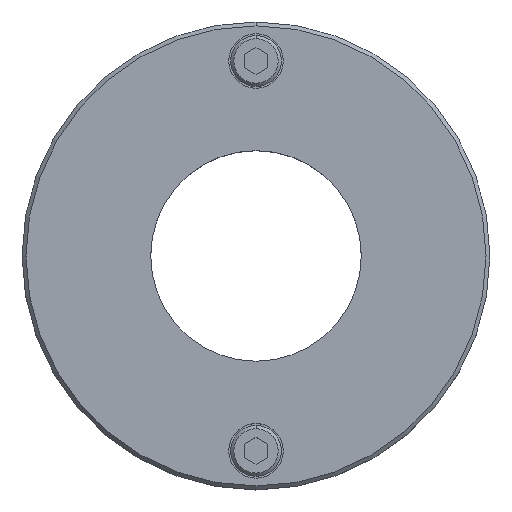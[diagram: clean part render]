
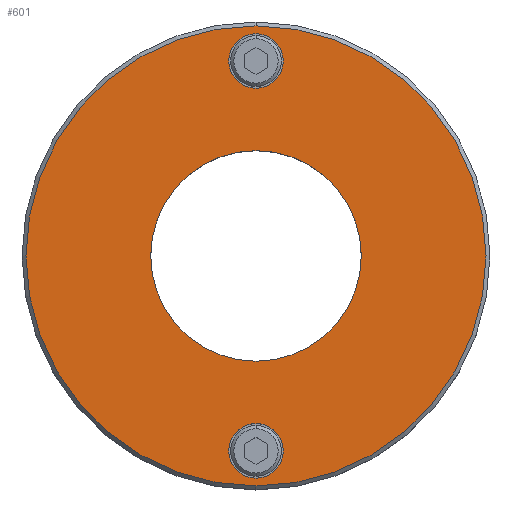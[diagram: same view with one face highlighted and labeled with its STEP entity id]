
A CAD part, top view. The second image highlights one B-rep face of the part: STEP entity #601.
In plain terms, the highlighted planar face has unit normal (0, 0, 1).
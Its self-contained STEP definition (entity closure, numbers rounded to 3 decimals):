
#124=VERTEX_POINT(' ',#125);
#125=CARTESIAN_POINT('',(0.,27.,20.));
#126=VERTEX_POINT(' ',#127);
#127=CARTESIAN_POINT('',(0.,-27.,20.));
#136=VERTEX_POINT(' ',#137);
#137=CARTESIAN_POINT('',(0.,57.,20.));
#138=VERTEX_POINT(' ',#139);
#139=CARTESIAN_POINT('',(0.,43.,20.));
#144=VERTEX_POINT(' ',#145);
#145=CARTESIAN_POINT('',(0.,-43.,20.));
#146=VERTEX_POINT(' ',#147);
#147=CARTESIAN_POINT('',(0.,-57.,20.));
#156=VERTEX_POINT(' ',#157);
#157=CARTESIAN_POINT('',(0.,59.,20.));
#158=VERTEX_POINT(' ',#159);
#159=CARTESIAN_POINT('',(0.,-59.,20.));
#218=CIRCLE('',#219,27.);
#219=AXIS2_PLACEMENT_3D('',#220,#221,#222);
#220=CARTESIAN_POINT('',(0.,0.,20.));
#221=DIRECTION('',(0.,0.,-1.));
#222=DIRECTION('',(-1.,0.,0.));
#223=EDGE_CURVE(' ',#124,#126,#218,.T.);
#224=CIRCLE('',#225,27.);
#225=AXIS2_PLACEMENT_3D('',#226,#227,#228);
#226=CARTESIAN_POINT('',(0.,0.,20.));
#227=DIRECTION('',(0.,0.,-1.));
#228=DIRECTION('',(1.,0.,0.));
#229=EDGE_CURVE(' ',#126,#124,#224,.T.);
#274=CIRCLE('',#275,7.);
#275=AXIS2_PLACEMENT_3D('',#276,#277,#278);
#276=CARTESIAN_POINT('',(0.,50.,20.));
#277=DIRECTION('',(0.,0.,1.));
#278=DIRECTION('',(1.,0.,0.));
#279=EDGE_CURVE(' ',#136,#138,#274,.T.);
#296=CIRCLE('',#297,7.);
#297=AXIS2_PLACEMENT_3D('',#298,#299,#300);
#298=CARTESIAN_POINT('',(0.,50.,20.));
#299=DIRECTION('',(0.,0.,1.));
#300=DIRECTION('',(-1.,0.,0.));
#301=EDGE_CURVE(' ',#138,#136,#296,.T.);
#308=CIRCLE('',#309,7.);
#309=AXIS2_PLACEMENT_3D('',#310,#311,#312);
#310=CARTESIAN_POINT('',(0.,-50.,20.));
#311=DIRECTION('',(0.,0.,1.));
#312=DIRECTION('',(1.,0.,0.));
#313=EDGE_CURVE(' ',#144,#146,#308,.T.);
#330=CIRCLE('',#331,7.);
#331=AXIS2_PLACEMENT_3D('',#332,#333,#334);
#332=CARTESIAN_POINT('',(0.,-50.,20.));
#333=DIRECTION('',(0.,0.,1.));
#334=DIRECTION('',(-1.,0.,0.));
#335=EDGE_CURVE(' ',#146,#144,#330,.T.);
#364=CIRCLE('',#365,59.);
#365=AXIS2_PLACEMENT_3D('',#366,#367,#368);
#366=CARTESIAN_POINT('',(0.,0.,20.));
#367=DIRECTION('',(0.,0.,1.));
#368=DIRECTION('',(1.,0.,0.));
#369=EDGE_CURVE(' ',#158,#156,#364,.F.);
#370=CIRCLE('',#371,59.);
#371=AXIS2_PLACEMENT_3D('',#372,#373,#374);
#372=CARTESIAN_POINT('',(0.,0.,20.));
#373=DIRECTION('',(0.,0.,1.));
#374=DIRECTION('',(-1.,0.,0.));
#375=EDGE_CURVE(' ',#156,#158,#370,.F.);
#580=ORIENTED_EDGE('',*,*,#369,.F.);
#581=ORIENTED_EDGE('',*,*,#375,.F.);
#582=EDGE_LOOP('',(#580,#581));
#583=FACE_OUTER_BOUND('',#582,.T.);
#584=ORIENTED_EDGE('',*,*,#335,.F.);
#585=ORIENTED_EDGE('',*,*,#313,.F.);
#586=EDGE_LOOP('',(#584,#585));
#587=FACE_BOUND('',#586,.T.);
#588=ORIENTED_EDGE('',*,*,#301,.F.);
#589=ORIENTED_EDGE('',*,*,#279,.F.);
#590=EDGE_LOOP('',(#588,#589));
#591=FACE_BOUND('',#590,.T.);
#592=ORIENTED_EDGE('',*,*,#223,.T.);
#593=ORIENTED_EDGE('',*,*,#229,.T.);
#594=EDGE_LOOP('',(#592,#593));
#595=FACE_BOUND('',#594,.T.);
#596=PLANE('',#597);
#597=AXIS2_PLACEMENT_3D('',#598,#599,#600);
#598=CARTESIAN_POINT('',(60.,0.,20.));
#599=DIRECTION('',(0.,0.,1.));
#600=DIRECTION('',(0.,1.,0.));
#601=ADVANCED_FACE('',(#583,#587,#591,#595),#596,.T.);
